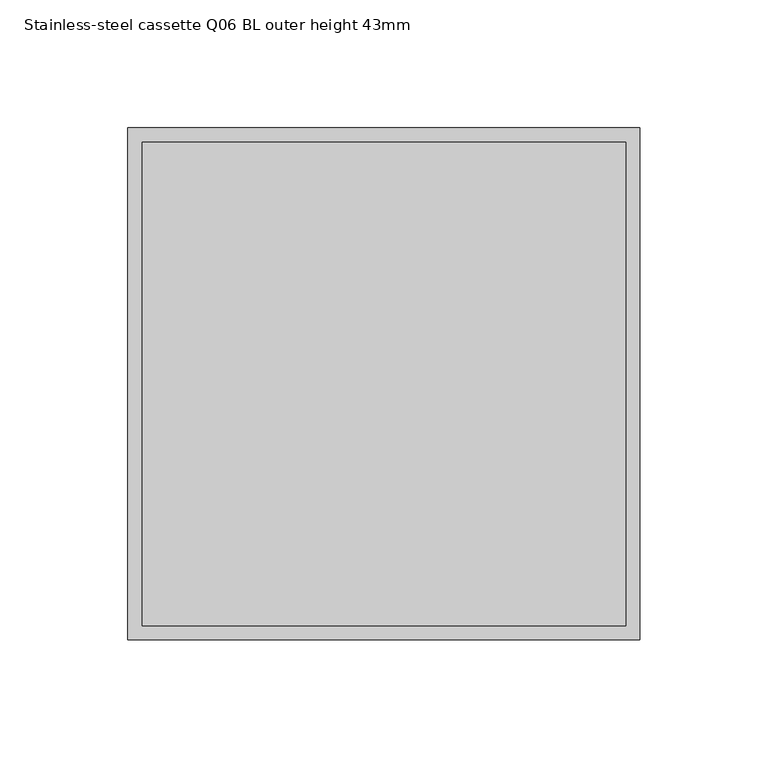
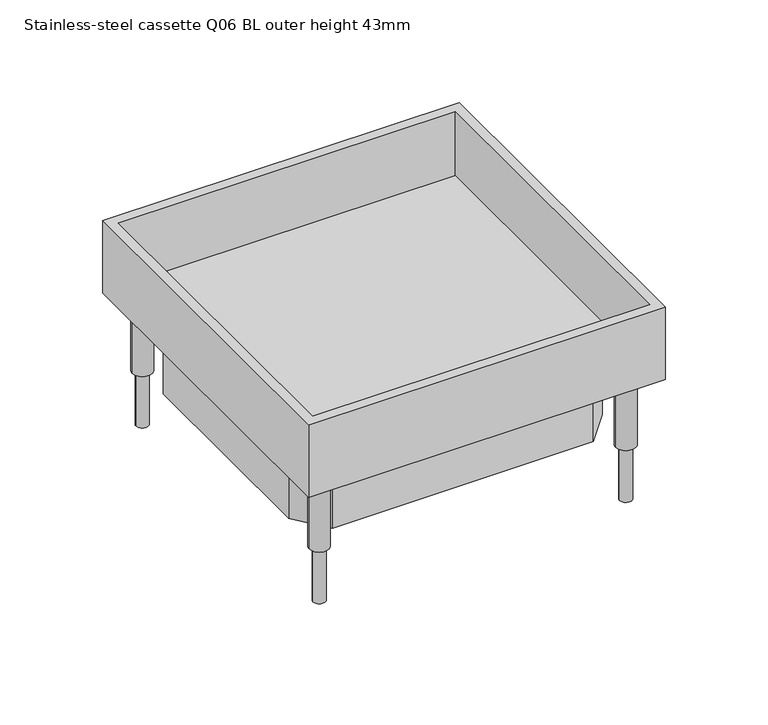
"""IFC4 building model written with IfcOpenShell, lengths in millimetres: proxy geometry, Electrical_Installation_Hager_VE-EE_EKQ-Height-adjustable-stainless-steel-cassette-blank-square-for-damp-cleaned-floors.rfa : Stainless-steel cassette Q06 BL outer height 43mm."""

import ifcopenshell
import ifcopenshell.guid

model = None  # the IFC model being written
_history = None  # IfcOwnerHistory: only IFC2X3 demands one
_inside = {}  # id of a spatial element -> (the spatial element, [elements in it])
_under = {}  # id of a project, library or spatial element -> (it, [spatial elements below it])
_declared = {}  # id of a project -> (the project, [libraries it declares])
_typed = {}  # id of a type object -> (the type object, [elements of that type])
_made_of = {}  # id of a material, layer set ... -> (it, [elements and type objects made of it])


def new_model(schema):
    """Start an empty IFC model of exactly this schema.

    Asked for "IFC4X3", IfcOpenShell would pick the latest addendum, in which some entities
    have other attributes; the version numbers below select the first issue.
    IFC2X3 requires an IfcOwnerHistory on every rooted entity: one is made here for all.
    """
    global model, _history
    if schema == "IFC4X3":
        model = ifcopenshell.file(schema_version=(4, 3, 0, 0))
    else:
        model = ifcopenshell.file(schema=schema)
    _inside.clear()
    _under.clear()
    _declared.clear()
    _typed.clear()
    _made_of.clear()
    _history = None
    if model.schema == "IFC2X3":
        org = make("IfcOrganization", Name="unknown")
        user = make(
            "IfcPersonAndOrganization",
            ThePerson=make("IfcPerson", FamilyName="unknown"),
            TheOrganization=org,
        )
        app = make(
            "IfcApplication",
            ApplicationDeveloper=org,
            Version="unknown",
            ApplicationFullName="unknown",
            ApplicationIdentifier="unknown",
        )
        _history = make(
            "IfcOwnerHistory",
            OwningUser=user,
            OwningApplication=app,
            ChangeAction="ADDED",
            CreationDate=0,
        )
    return model


def make(cls, **values):
    """One entity of the class cls with the attributes given. An attribute that is None is left unset."""
    return model.create_entity(
        cls, **{name: value for name, value in values.items() if value is not None}
    )


def rooted(cls, **values):
    """An entity with a GlobalId (a new one), such as an element, a storey or a relation."""
    return make(cls, GlobalId=ifcopenshell.guid.new(), OwnerHistory=_history, **values)


def si_unit(unit_type, name, prefix=None):
    """IfcSIUnit, for example si_unit("LENGTHUNIT", "METRE", prefix="MILLI")."""
    return make("IfcSIUnit", UnitType=unit_type, Prefix=prefix, Name=name)


def assignment(units):
    """IfcUnitAssignment: the units of a project."""
    return None if units is None else make("IfcUnitAssignment", Units=units)


def point(xyz):
    """IfcCartesianPoint."""
    return None if xyz is None else make("IfcCartesianPoint", Coordinates=xyz)


def direction(xyz):
    """IfcDirection."""
    return None if xyz is None else make("IfcDirection", DirectionRatios=xyz)


def frame(location, z_axis=None, x_axis=None):
    """IfcAxis2Placement3D, a coordinate frame: its origin and axes. An axis left out is left unset."""
    return make(
        "IfcAxis2Placement3D",
        Location=point(location),
        Axis=direction(z_axis),
        RefDirection=direction(x_axis),
    )


def frame_2d(location, x_axis=None):
    """IfcAxis2Placement2D, a coordinate frame in the plane: its origin and x axis."""
    return make(
        "IfcAxis2Placement2D", Location=point(location), RefDirection=direction(x_axis)
    )


def origin():
    """The frame at (0, 0, 0) with its axes left unset."""
    return frame((0.0, 0.0, 0.0))


def place(relative_to, where):
    """IfcLocalPlacement: puts the frame where relative to a parent placement (None: the world)."""
    return make(
        "IfcLocalPlacement", PlacementRelTo=relative_to, RelativePlacement=where
    )


def context(
    kind, dimensions, precision=None, world=None, true_north=None, identifier=None
):
    """IfcGeometricRepresentationContext, for example the 3D "Model" context."""
    return make(
        "IfcGeometricRepresentationContext",
        ContextIdentifier=identifier,
        ContextType=kind,
        CoordinateSpaceDimension=dimensions,
        Precision=precision,
        WorldCoordinateSystem=world,
        TrueNorth=true_north,
    )


def project(units=None, contexts=None):
    """IfcProject with its units and contexts."""
    return rooted(
        "IfcProject",
        Name="project",
        RepresentationContexts=contexts,
        UnitsInContext=assignment(units),
    )


def spatial(cls, under=None, at=None, **own):
    """A site, building, storey or space (cls), placed at a placement, below another one or the project."""
    s = rooted(cls, ObjectPlacement=at, **own)
    if under is not None:
        _under.setdefault(under.id(), (under, []))[1].append(s)
    return s


def polyline(points):
    """IfcPolyline through the points."""
    return make("IfcPolyline", Points=[point(p) for p in points])


def circle_curve(where, radius):
    """IfcCircle in the frame where."""
    return make("IfcCircle", Position=where, Radius=radius)


def trimmed(basis, trim1, trim2, sense, master):
    """IfcTrimmedCurve: the piece of a basis curve between two trims."""
    return make(
        "IfcTrimmedCurve",
        BasisCurve=basis,
        Trim1=trim1,
        Trim2=trim2,
        SenseAgreement=sense,
        MasterRepresentation=master,
    )


def segment(curve, same_sense, transition):
    """IfcCompositeCurveSegment."""
    return make(
        "IfcCompositeCurveSegment",
        Transition=transition,
        SameSense=same_sense,
        ParentCurve=curve,
    )


def composite_curve(segments, self_intersect=None):
    """IfcCompositeCurve: segments joined end to end."""
    return make("IfcCompositeCurve", Segments=segments, SelfIntersect=self_intersect)


def outline(outer, holes=None, kind="AREA"):
    """IfcArbitraryClosedProfileDef: a profile drawn as a closed curve; with holes, ...WithVoids."""
    if holes is None:
        return make("IfcArbitraryClosedProfileDef", ProfileType=kind, OuterCurve=outer)
    return make(
        "IfcArbitraryProfileDefWithVoids",
        ProfileType=kind,
        OuterCurve=outer,
        InnerCurves=holes,
    )


def extrude(swept, where, along, depth):
    """IfcExtrudedAreaSolid: the profile swept, set in the frame where, extruded along a direction by depth."""
    return make(
        "IfcExtrudedAreaSolid",
        SweptArea=swept,
        Position=where,
        ExtrudedDirection=direction(along),
        Depth=depth,
    )


def shape(context_of_items, identifier, shape_type, items):
    """IfcShapeRepresentation: the items that make up one representation, for example the "Body"."""
    return make(
        "IfcShapeRepresentation",
        ContextOfItems=context_of_items,
        RepresentationIdentifier=identifier,
        RepresentationType=shape_type,
        Items=items,
    )


def source(mapping_origin, context_of_items, identifier, shape_type, items):
    """IfcRepresentationMap: a shape defined once, which mapped items show again and again."""
    return make(
        "IfcRepresentationMap",
        MappingOrigin=mapping_origin,
        MappedRepresentation=shape(context_of_items, identifier, shape_type, items),
    )


def transform(
    local_origin,
    x_axis=None,
    y_axis=None,
    z_axis=None,
    scale=None,
    scale2=None,
    scale3=None,
    uniform=True,
):
    """IfcCartesianTransformationOperator3D, or its non-uniform kind. x_axis, y_axis, z_axis: its Axis1, 2, 3."""
    if uniform:
        return make(
            "IfcCartesianTransformationOperator3D",
            Axis1=direction(x_axis),
            Axis2=direction(y_axis),
            LocalOrigin=point(local_origin),
            Scale=scale,
            Axis3=direction(z_axis),
        )
    return make(
        "IfcCartesianTransformationOperator3DnonUniform",
        Axis1=direction(x_axis),
        Axis2=direction(y_axis),
        LocalOrigin=point(local_origin),
        Scale=scale,
        Axis3=direction(z_axis),
        Scale2=scale2,
        Scale3=scale3,
    )


def mapped(mapping_source, mapping_target):
    """IfcMappedItem: shows the shape of a source again, moved by a transform."""
    return make(
        "IfcMappedItem", MappingSource=mapping_source, MappingTarget=mapping_target
    )


def made_of(thing, what):
    """Note that an element or type object is made of a material, layer set ...; save() writes the relation."""
    if what is not None:
        _made_of.setdefault(what.id(), (what, []))[1].append(thing)
    return thing


def element(
    cls,
    number,
    at=None,
    inside=None,
    cuts=None,
    type_object=None,
    material=None,
    context=None,
    identifier="Body",
    shape_type=None,
    held_by="IfcProductDefinitionShape",
    body=None,
    shapes=None,
    **own,
):
    """One element of the class cls, such as IfcWall. Its Tag is "e" and its number.

    at: its placement. inside: the storey or other place that contains it. cuts: it is an
    opening in that element (IfcRelVoidsElement). A single representation is given by context,
    identifier, shape_type and body (its items); several are given by shapes. held_by: the class
    of the entity that holds the representations. save() writes the other relations.
    """
    e = rooted(cls, Tag="e%d" % number, ObjectPlacement=at, **own)
    if body is not None:
        shapes = [shape(context, identifier, shape_type, body)]
    if shapes is not None:
        e.Representation = make(held_by, Representations=shapes)
    if inside is not None:
        _inside.setdefault(inside.id(), (inside, []))[1].append(e)
    if cuts is not None:
        rooted(
            "IfcRelVoidsElement", RelatingBuildingElement=cuts, RelatedOpeningElement=e
        )
    if type_object is not None:
        _typed.setdefault(type_object.id(), (type_object, []))[1].append(e)
    return made_of(e, material)


def aggregate(whole, parts):
    """IfcRelAggregates: a whole, such as a stair, and the parts it consists of."""
    return rooted("IfcRelAggregates", RelatingObject=whole, RelatedObjects=parts)


def save(model, path):
    """Write the relations noted so far, then the file.

    IfcRelAggregates (storeys below a building ...), IfcRelContainedInSpatialStructure (elements
    in a storey), IfcRelDefinesByType, IfcRelAssociatesMaterial and IfcRelDeclares: one each for
    every whole, place, type object, material and project.
    """
    for whole, parts in _under.values():
        aggregate(whole, parts)
    for where, things in _inside.values():
        rooted(
            "IfcRelContainedInSpatialStructure",
            RelatedElements=things,
            RelatingStructure=where,
        )
    for kind, things in _typed.values():
        rooted("IfcRelDefinesByType", RelatedObjects=things, RelatingType=kind)
    for what, things in _made_of.values():
        rooted("IfcRelAssociatesMaterial", RelatedObjects=things, RelatingMaterial=what)
    for by, libraries in _declared.values():
        rooted("IfcRelDeclares", RelatingContext=by, RelatedDefinitions=libraries)
    model.write(path)


def stainless_steel_cassette_q06_bl_outer_height_43mm_a47f6d24(model_context):
    return source(origin(), model_context, "Body", "SweptSolid", [
        extrude(outline(composite_curve([segment(trimmed(circle_curve(frame_2d((-86.0, 86.0)), 3.5), [point((-89.5, 86.0))], [point((-82.5, 86.0))], False, "CARTESIAN"), True, "CONTINUOUS"), segment(trimmed(circle_curve(frame_2d((-86.0, 86.0)), 3.5), [point((-82.5, 86.0))], [point((-89.5, 86.0))], False, "CARTESIAN"), True, "CONTINUOUS")], self_intersect=False)), frame((0.0, 0.0, -115.0), z_axis=(0.0, 0.0, 1.0), x_axis=(1.0, 0.0, 0.0)), (0.0, 0.0, 1.0), 32.0011554),
        extrude(outline(composite_curve([segment(trimmed(circle_curve(frame_2d((86.0, 86.0)), 3.5), [point((82.5, 86.0))], [point((89.5, 86.0))], False, "CARTESIAN"), True, "CONTINUOUS"), segment(trimmed(circle_curve(frame_2d((86.0, 86.0)), 3.5), [point((89.5, 86.0))], [point((82.5, 86.0))], False, "CARTESIAN"), True, "CONTINUOUS")], self_intersect=False)), frame((0.0, 0.0, -115.0), z_axis=(0.0, 0.0, 1.0), x_axis=(1.0, 0.0, 0.0)), (0.0, 0.0, 1.0), 32.0011554),
        extrude(outline(composite_curve([segment(trimmed(circle_curve(frame_2d((86.0, -86.0)), 3.523354), [point((82.476646, -86.0))], [point((89.523354, -86.0))], False, "CARTESIAN"), True, "CONTINUOUS"), segment(trimmed(circle_curve(frame_2d((86.0, -86.0)), 3.523354), [point((89.523354, -86.0))], [point((82.476646, -86.0))], False, "CARTESIAN"), True, "CONTINUOUS")], self_intersect=False)), frame((0.0, 0.0, -115.0), z_axis=(0.0, 0.0, 1.0), x_axis=(1.0, 0.0, 0.0)), (0.0, 0.0, 1.0), 32.0011554),
        extrude(outline(composite_curve([segment(trimmed(circle_curve(frame_2d((-86.0, -86.0)), 3.5), [point((-89.5, -86.0))], [point((-82.5, -86.0))], False, "CARTESIAN"), True, "CONTINUOUS"), segment(trimmed(circle_curve(frame_2d((-86.0, -86.0)), 3.5), [point((-82.5, -86.0))], [point((-89.5, -86.0))], False, "CARTESIAN"), True, "CONTINUOUS")], self_intersect=False)), frame((0.0, 0.0, -115.0), z_axis=(0.0, 0.0, 1.0), x_axis=(1.0, 0.0, 0.0)), (0.0, 0.0, 1.0), 32.0011554),
        extrude(outline(polyline([(4.7, 77.5), (73.3639966, 77.5), (88.0, 60.5470649), (88.0, -59.6394213), (72.7984665, -77.5), (-73.867755, -77.5), (-88.0, -59.6801256), (-88.0, 62.043544), (-73.6272863, 77.5), (4.7, 77.5)]), holes=[polyline([(-85.0, 60.8642535), (-85.0, -58.634929), (-72.4180331, -74.5), (71.4123304, -74.5), (85.0, -58.5355815), (85.0, 59.4312235), (71.9906502, 74.5), (4.7, 74.5), (-72.3203352, 74.5), (-85.0, 60.8642535)])]), frame((0.0, 0.0, -82.0), z_axis=(0.0, 0.0, 1.0), x_axis=(1.0, 0.0, 0.0)), (0.0, 0.0, 1.0), 41.0),
        extrude(outline(polyline([(94.5, 94.5), (94.5, -94.5), (-94.5, -94.5), (-94.5, 94.5), (94.5, 94.5)])), frame((0.0, 0.0, -41.0), z_axis=(0.0, 0.0, 1.0), x_axis=(1.0, 0.0, 0.0)), (0.0, 0.0, 1.0), 5.0),
        extrude(outline(composite_curve([segment(trimmed(circle_curve(frame_2d((-86.0, 86.0)), 5.5), [point((-91.5, 86.0))], [point((-80.5, 86.0))], False, "CARTESIAN"), True, "CONTINUOUS"), segment(trimmed(circle_curve(frame_2d((-86.0, 86.0)), 5.5), [point((-80.5, 86.0))], [point((-91.5, 86.0))], False, "CARTESIAN"), True, "CONTINUOUS")], self_intersect=False)), frame((0.0, 0.0, -82.9988446), z_axis=(0.0, 0.0, 1.0), x_axis=(1.0, 0.0, 0.0)), (0.0, 0.0, 1.0), 41.9988446),
        extrude(outline(composite_curve([segment(trimmed(circle_curve(frame_2d((86.0, 86.0)), 5.5), [point((80.5, 86.0))], [point((91.5, 86.0))], False, "CARTESIAN"), True, "CONTINUOUS"), segment(trimmed(circle_curve(frame_2d((86.0, 86.0)), 5.5), [point((91.5, 86.0))], [point((80.5, 86.0))], False, "CARTESIAN"), True, "CONTINUOUS")], self_intersect=False)), frame((0.0, 0.0, -82.9988446), z_axis=(0.0, 0.0, 1.0), x_axis=(1.0, 0.0, 0.0)), (0.0, 0.0, 1.0), 41.9988446),
        extrude(outline(composite_curve([segment(trimmed(circle_curve(frame_2d((-86.0, -86.0)), 5.5), [point((-91.5, -86.0))], [point((-80.5, -86.0))], False, "CARTESIAN"), True, "CONTINUOUS"), segment(trimmed(circle_curve(frame_2d((-86.0, -86.0)), 5.5), [point((-80.5, -86.0))], [point((-91.5, -86.0))], False, "CARTESIAN"), True, "CONTINUOUS")], self_intersect=False)), frame((0.0, 0.0, -82.9988446), z_axis=(0.0, 0.0, 1.0), x_axis=(1.0, 0.0, 0.0)), (0.0, 0.0, 1.0), 41.9988446),
        extrude(outline(composite_curve([segment(trimmed(circle_curve(frame_2d((86.0, -86.0)), 5.5), [point((80.5, -86.0))], [point((91.5, -86.0))], False, "CARTESIAN"), True, "CONTINUOUS"), segment(trimmed(circle_curve(frame_2d((86.0, -86.0)), 5.5), [point((91.5, -86.0))], [point((80.5, -86.0))], False, "CARTESIAN"), True, "CONTINUOUS")], self_intersect=False)), frame((0.0, 0.0, -82.9988446), z_axis=(0.0, 0.0, 1.0), x_axis=(1.0, 0.0, 0.0)), (0.0, 0.0, 1.0), 41.9988446),
        extrude(outline(polyline([(100.0, 100.0), (100.0, -100.0), (-100.0, -100.0), (-100.0, 100.0), (100.0, 100.0)]), holes=[polyline([(94.5, 94.5), (-94.5, 94.5), (-94.5, -94.5), (94.5, -94.5), (94.5, 94.5)])]), frame((0.0, 0.0, -41.0), z_axis=(0.0, 0.0, 1.0), x_axis=(1.0, 0.0, 0.0)), (0.0, 0.0, 1.0), 43.0),
    ])


if __name__ == "__main__":
    model = new_model("IFC4")
    model_context = context("Model", 3, world=origin())
    ifc_project = project(units=[si_unit("LENGTHUNIT", "METRE", prefix="MILLI")], contexts=[model_context])
    site = spatial("IfcSite", under=ifc_project)
    building = spatial("IfcBuilding", under=site)
    placement = place(None, origin())
    stainless_steel_cassette_q06_bl_outer_height_43mm_shape = stainless_steel_cassette_q06_bl_outer_height_43mm_a47f6d24(model_context)
    element("IfcBuildingElementProxy", 1, Name="Electrical_Installation_Hager_VE-EE_EKQ-Height-adjustable-stainless-steel-cassette-blank-square-for-damp-cleaned-floors.rfa : Stainless-steel cassette Q06 BL outer height 43mm", ObjectType="Electrical_Installation_Hager_VE-EE_EKQ-Height-adjustable-stainless-steel-cassette-blank-square-for-damp-cleaned-floors.rfa : Stainless-steel cassette Q06 BL outer height 43mm", at=placement, inside=building, context=model_context, shape_type="MappedRepresentation", body=[
        mapped(stainless_steel_cassette_q06_bl_outer_height_43mm_shape, transform((0.0, 0.0, 0.0), x_axis=(1.0, 0.0, 0.0), y_axis=(0.0, 1.0, 0.0), z_axis=(0.0, 0.0, 1.0))),
    ])
    save(model, "model.ifc")
